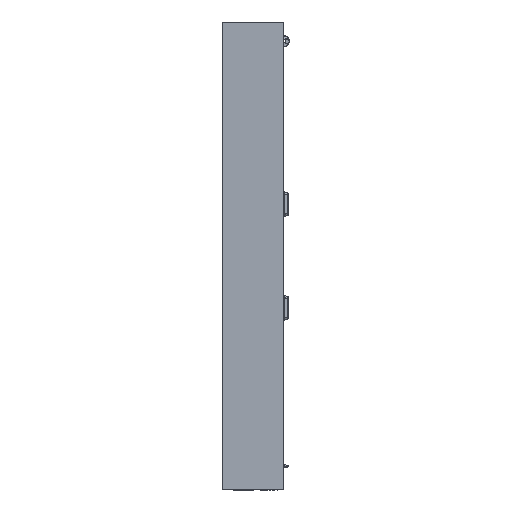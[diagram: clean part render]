
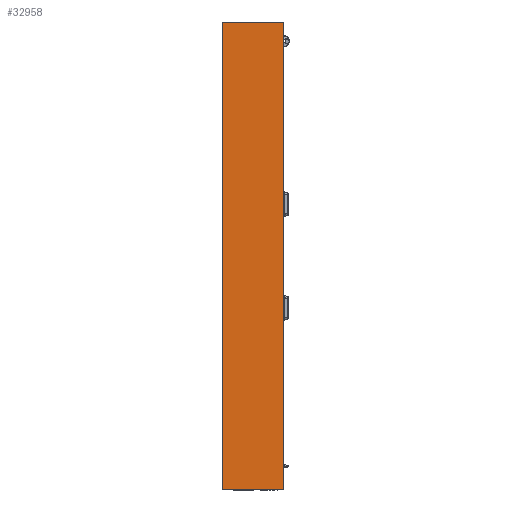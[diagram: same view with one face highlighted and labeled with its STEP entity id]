
A CAD part, left-side view. The second image highlights one B-rep face of the part: STEP entity #32958.
In plain terms, the highlighted planar face has unit normal (-1, 0, 0).
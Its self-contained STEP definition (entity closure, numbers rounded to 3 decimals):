
#1800 = DIRECTION ( 'NONE',  ( 0., -1., 0. ) ) ;
#3172 = CARTESIAN_POINT ( 'NONE',  ( -498.219, 83.04, 1177.893 ) ) ;
#5041 = CARTESIAN_POINT ( 'NONE',  ( -498.219, 168.04, 1177.893 ) ) ;
#6429 = EDGE_CURVE ( 'NONE', #72795, #41851, #7823, .T. ) ;
#7823 = LINE ( 'NONE', #90741, #81335 ) ;
#9449 = VERTEX_POINT ( 'NONE', #73918 ) ;
#13718 = ORIENTED_EDGE ( 'NONE', *, *, #53774, .T. ) ;
#14127 = PLANE ( 'NONE',  #53294 ) ;
#19795 = CARTESIAN_POINT ( 'NONE',  ( -498.219, 168.04, 1177.893 ) ) ;
#21429 = EDGE_CURVE ( 'NONE', #55443, #9449, #51241, .T. ) ;
#25381 = FACE_OUTER_BOUND ( 'NONE', #42605, .T. ) ;
#31297 = CARTESIAN_POINT ( 'NONE',  ( -498.219, 168.04, 527.893 ) ) ;
#32958 = ADVANCED_FACE ( 'NONE', ( #25381 ), #14127, .T. ) ;
#35882 = DIRECTION ( 'NONE',  ( 0., -1., 0. ) ) ;
#39776 = ORIENTED_EDGE ( 'NONE', *, *, #68311, .F. ) ;
#39933 = VECTOR ( 'NONE', #1800, 1000. ) ;
#41851 = VERTEX_POINT ( 'NONE', #3172 ) ;
#42276 = CARTESIAN_POINT ( 'NONE',  ( -498.219, 168.04, 1177.893 ) ) ;
#42605 = EDGE_LOOP ( 'NONE', ( #39776, #82430, #13718, #81819 ) ) ;
#51241 = LINE ( 'NONE', #58657, #39933 ) ;
#53294 = AXIS2_PLACEMENT_3D ( 'NONE', #42276, #57670, #35882 ) ;
#53774 = EDGE_CURVE ( 'NONE', #72795, #55443, #93690, .T. ) ;
#55443 = VERTEX_POINT ( 'NONE', #31297 ) ;
#57670 = DIRECTION ( 'NONE',  ( -1., 0., 0. ) ) ;
#58657 = CARTESIAN_POINT ( 'NONE',  ( -498.219, 168.04, 527.893 ) ) ;
#62480 = DIRECTION ( 'NONE',  ( 0., 0., -1. ) ) ;
#63710 = LINE ( 'NONE', #83373, #69357 ) ;
#68311 = EDGE_CURVE ( 'NONE', #41851, #9449, #63710, .T. ) ;
#69357 = VECTOR ( 'NONE', #62480, 1000. ) ;
#72795 = VERTEX_POINT ( 'NONE', #19795 ) ;
#73918 = CARTESIAN_POINT ( 'NONE',  ( -498.219, 83.04, 527.893 ) ) ;
#75526 = VECTOR ( 'NONE', #77382, 1000. ) ;
#77382 = DIRECTION ( 'NONE',  ( 0., 0., -1. ) ) ;
#81335 = VECTOR ( 'NONE', #83150, 1000. ) ;
#81819 = ORIENTED_EDGE ( 'NONE', *, *, #21429, .T. ) ;
#82430 = ORIENTED_EDGE ( 'NONE', *, *, #6429, .F. ) ;
#83150 = DIRECTION ( 'NONE',  ( 0., -1., 0. ) ) ;
#83373 = CARTESIAN_POINT ( 'NONE',  ( -498.219, 83.04, 1177.893 ) ) ;
#90741 = CARTESIAN_POINT ( 'NONE',  ( -498.219, 168.04, 1177.893 ) ) ;
#93690 = LINE ( 'NONE', #5041, #75526 ) ;
